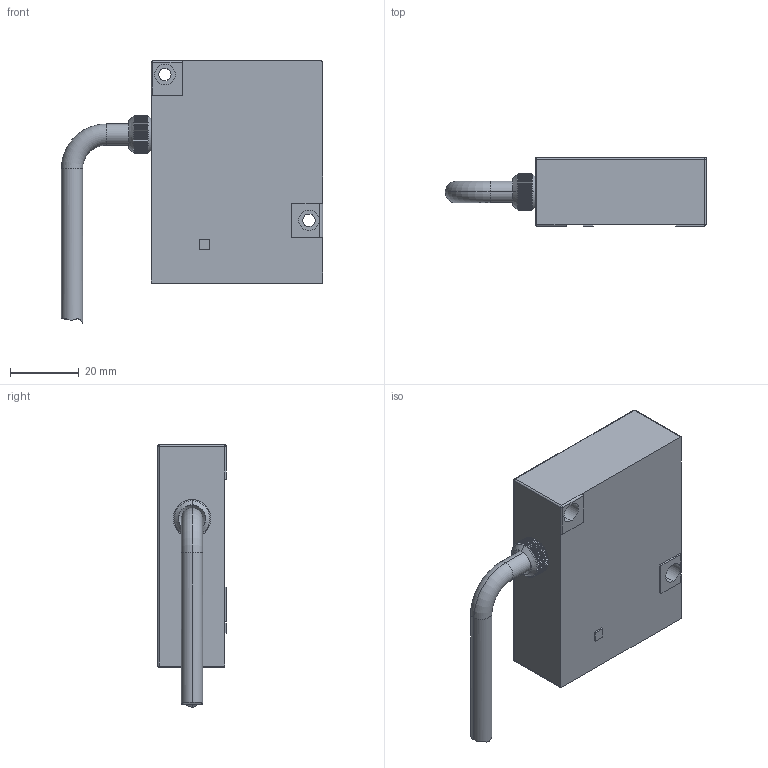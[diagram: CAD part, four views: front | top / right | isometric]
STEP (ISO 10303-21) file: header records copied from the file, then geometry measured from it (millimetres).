
FILE_DESCRIPTION (( 'STEP AP203' ), '1' );
FILE_NAME ('RF603_CG.STEP', '2011-03-17T08:21:49', ( 'Ñåðãåé Ì' ), ( '' ), 'SwSTEP 2.0', 'SolidWorks 2009', '' );
FILE_SCHEMA (( 'CONFIG_CONTROL_DESIGN' ));
Length unit declared in the file: millimetre
Products named in the file (5): ISO 14581_Ì2õ4_Default; RF603.00.81; RF605.00.026; RF603.00.04; RF603_CG
Assembly tree (6 placements, depth 2):
  RF603_CG
    RF603.00.81
    ISO 14581_Ì2õ4_Default  x3
    RF603.00.04
    RF605.00.026
Bounding box: 76.2 x 20 x 76.5 mm (x, y, z)
Volume: 64739.3 mm3; surface area: 13803.2 mm2
Topology: 6 solids, 6 shells, 385 faces, 1021 edges, 650 vertices
Faces by surface type: plane 208, cylinder 129, cone 36, torus 6, sphere 5, bspline 1
Entity records: 11430 total; most frequent: CARTESIAN_POINT 2657, ORIENTED_EDGE 1800, DIRECTION 1623, EDGE_CURVE 900, AXIS2_PLACEMENT_3D 620, VERTEX_POINT 582, VECTOR 383, LINE 383
